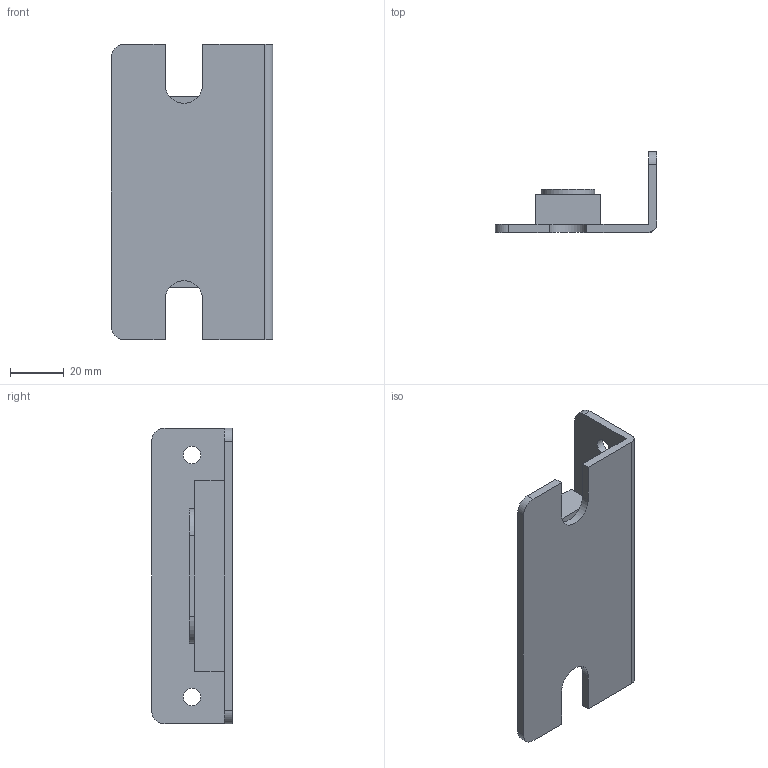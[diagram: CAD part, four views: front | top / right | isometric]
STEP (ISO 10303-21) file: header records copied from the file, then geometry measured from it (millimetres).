
FILE_DESCRIPTION (( 'STEP AP214' ), '1' );
FILE_NAME ('DFB-1010.STEP', '2020-03-13T12:52:02', ( '' ), ( '' ), 'SwSTEP 2.0', 'SolidWorks 2019', '' );
FILE_SCHEMA (( 'AUTOMOTIVE_DESIGN' ));
Length unit declared in the file: millimetre
Products named in the file (1): DFB-1010
Bounding box: 60 x 30 x 110 mm (x, y, z)
Volume: 47084.6 mm3; surface area: 21587.9 mm2
Topology: 1 solids, 1 shells, 40 faces, 107 edges, 70 vertices
Faces by surface type: plane 25, cylinder 15
Entity records: 1295 total; most frequent: DIRECTION 223, CARTESIAN_POINT 218, ORIENTED_EDGE 214, EDGE_CURVE 107, AXIS2_PLACEMENT_3D 75, LINE 73, VECTOR 73, VERTEX_POINT 70
